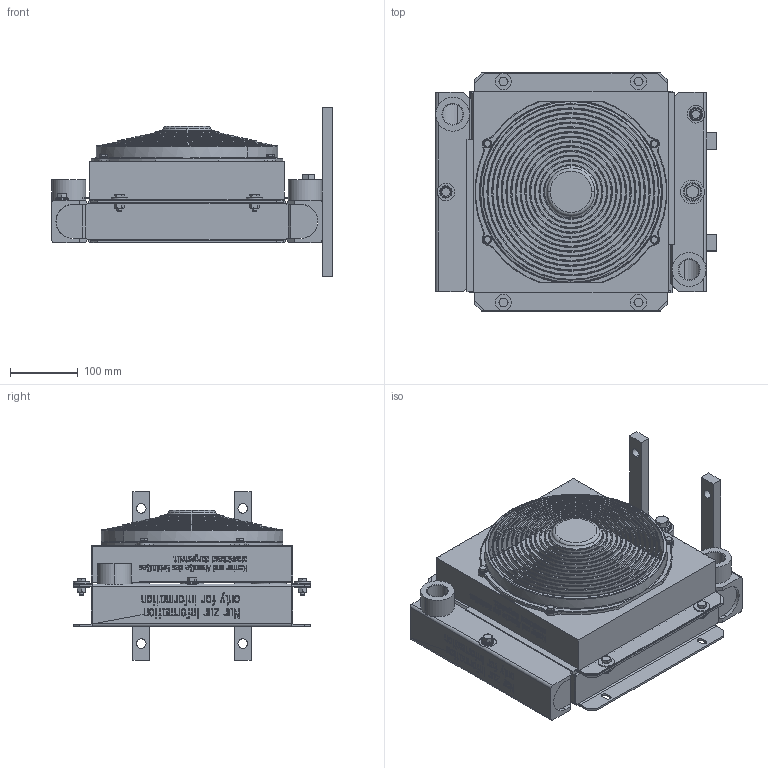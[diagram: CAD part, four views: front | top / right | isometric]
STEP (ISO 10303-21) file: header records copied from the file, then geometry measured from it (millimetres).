
FILE_DESCRIPTION((' '),'1');
FILE_NAME('5202_202_0000.step','2007-09-12 T',(' '),(' '),'STEP Interface v1.0 by CT CoreTechnologie','3D_Evolution v1.0 by CT CoreTechnologie',' ');
FILE_SCHEMA(('AUTOMOTIVE_DESIGN_CC2 { 1 2 10303 214 -1 1 5 2 }'));
Length unit declared in the file: millimetre
Products named in the file (44): 5202_202_0000; Sechskantschraube_ISO_4017-M6x16-8_8-A3B; 603803; 8407_304_0167; 6030041; 6030042; 6030043; 6030044; Sechskantschraube_ISO_4017-M8x20-8_8-A3B; 603857; 5202_202_40101; 5202_202_40102; m81; m82; m83; m84; 6004031; 6004032; 6004033; 6004034; 5202_202_12101; 5202_202_12102; 5202_202_1000; 5202_202_13001; 8421_502_0000-1_Bohrung1; 8423_219_00001; 5202_202_13002; 8421_502_0000-11; 5202_202_12001; 8423_217_0000; 8423_219_00002; 8421_502_0000-12; 8421_502_0000-1_Bohrung2; 5202_202_12002; 5202_202_11001; 8560_273_00291; 8560_273_00292; 5202_202_11002; 603250; 603666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
Assembly tree (59 placements, depth 4):
  5202_202_0000
    Sechskantschraube_ISO_4017-M6x16-8_8-A3B  x4
    603803  x4
    8407_304_0167
    6030041
    6030042
    6030043
    6030044
    Sechskantschraube_ISO_4017-M8x20-8_8-A3B  x4
    603857  x8
    5202_202_40101
      5202_202_40102
      m81
      m82
      m83
      m84
    6004031
    6004032
    6004033
    6004034
    5202_202_12101
    5202_202_12102
    5202_202_1000
      5202_202_13001
        8421_502_0000-1_Bohrung1
        8423_219_00001
        5202_202_13002
        8421_502_0000-11
      5202_202_12001
        8423_217_0000
        8423_219_00002
        8421_502_0000-12
        8421_502_0000-1_Bohrung2
        5202_202_12002
      5202_202_11001
        8560_273_00291
        8560_273_00292
        5202_202_11002
      603250
      603666
      603295
      603655
      603241
      603667
Bounding box: 415.01 x 352.23 x 250 mm (x, y, z)
Volume: 6752393.1 mm3; surface area: 1069267.6 mm2
Topology: 66 solids, 67 shells, 2472 faces, 6293 edges, 4066 vertices
Faces by surface type: plane 1424, cylinder 371, bspline 285, cone 216, torus 176
Entity records: 99113 total; most frequent: CARTESIAN_POINT 24673, ORIENTED_EDGE 11616, DIRECTION 10449, EDGE_CURVE 5817, VECTOR 3937, LINE 3937, VERTEX_POINT 3776, AXIS2_PLACEMENT_3D 3256
